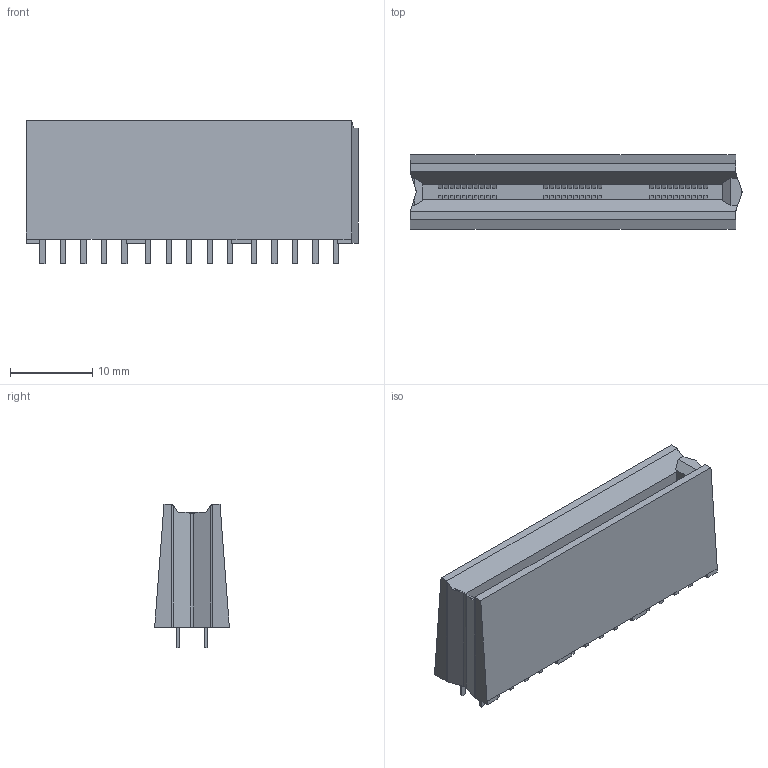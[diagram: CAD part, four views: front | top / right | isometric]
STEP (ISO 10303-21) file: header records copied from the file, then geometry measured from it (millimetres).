
FILE_DESCRIPTION((''),'2;1');
FILE_NAME('C-6650383-3','2019-02-28T07:58:44',('workeradm'),('TE Connectivity Ltd.'),'CREO PARAMETRIC BY PTC INC, 2018190','CREO PARAMETRIC BY PTC INC, 2018190','');
FILE_SCHEMA(('AUTOMOTIVE_DESIGN { 1 0 10303 214 1 1 1 1 }'));
Length unit declared in the file: millimetre
Products named in the file (1): C-6650383-3
Bounding box: 40.48 x 9.11 x 17.52 mm (x, y, z)
Volume: 3679.6 mm3; surface area: 3365.6 mm2
Topology: 1 solids, 1 shells, 645 faces, 1647 edges, 1094 vertices
Faces by surface type: plane 519, cylinder 126
Entity records: 19365 total; most frequent: CARTESIAN_POINT 3403, ORIENTED_EDGE 3294, DIRECTION 3183, EDGE_CURVE 1647, VECTOR 1391, LINE 1391, VERTEX_POINT 1094, AXIS2_PLACEMENT_3D 896
